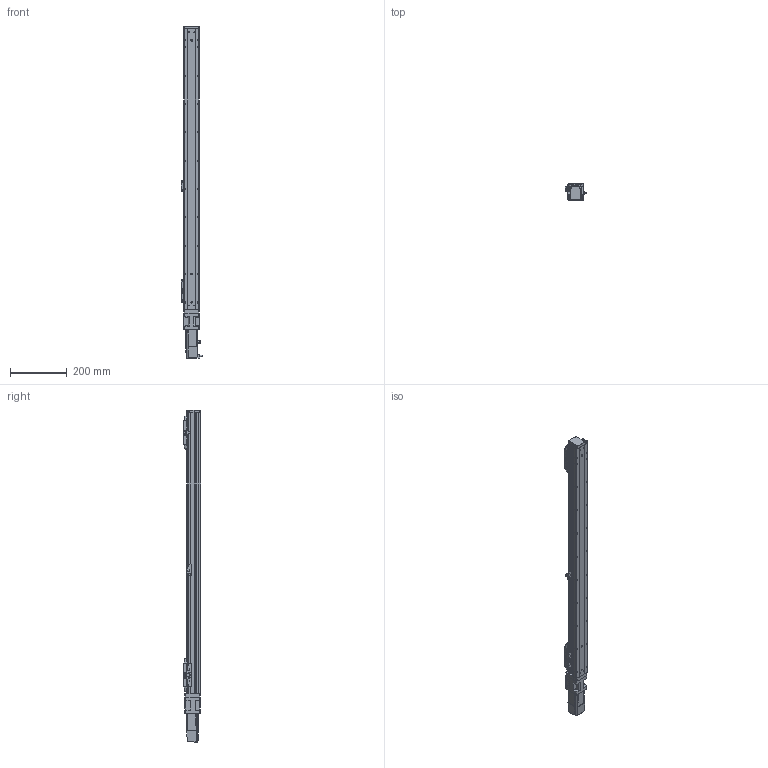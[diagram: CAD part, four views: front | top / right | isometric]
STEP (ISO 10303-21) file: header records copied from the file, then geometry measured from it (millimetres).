
FILE_DESCRIPTION (( 'STEP AP203' ), '1' );
FILE_NAME ('13.STEP', '2020-10-31T07:40:29', ( '' ), ( '' ), 'SwSTEP 2.0', 'SolidWorks 2016', '' );
FILE_SCHEMA (( 'CONFIG_CONTROL_DESIGN' ));
Length unit declared in the file: millimetre
Products named in the file (11): CTH5S-BC-07; CTH5S-BC-01; CTH5S-BC-06; CTH5S-BC-菁釱; CTH5S-BC-03; CTH5S-BC-HZ; CTH5S-BC-05; 13; CTH5S-BC-T10; CTH5S-BC-02; CTH5S-BC-04
Assembly tree (16 placements, depth 2):
  13
    CTH5S-BC-菁釱
    CTH5S-BC-01
    CTH5S-BC-02
    CTH5S-BC-03
    CTH5S-BC-04
    CTH5S-BC-05  x2
    CTH5S-BC-06  x3
    CTH5S-BC-07  x3
    CTH5S-BC-HZ  x2
    CTH5S-BC-T10
Bounding box: 74.7 x 60 x 1171.1 mm (x, y, z)
Volume: 2368451.9 mm3; surface area: 423129.4 mm2
Topology: 36 solids, 36 shells, 2003 faces, 5587 edges, 3596 vertices
Faces by surface type: plane 990, cylinder 657, cone 226, bspline 130
Entity records: 47898 total; most frequent: CARTESIAN_POINT 13740, ORIENTED_EDGE 7242, DIRECTION 6331, EDGE_CURVE 3621, VERTEX_POINT 2366, AXIS2_PLACEMENT_3D 2132, LINE 2067, VECTOR 2067
